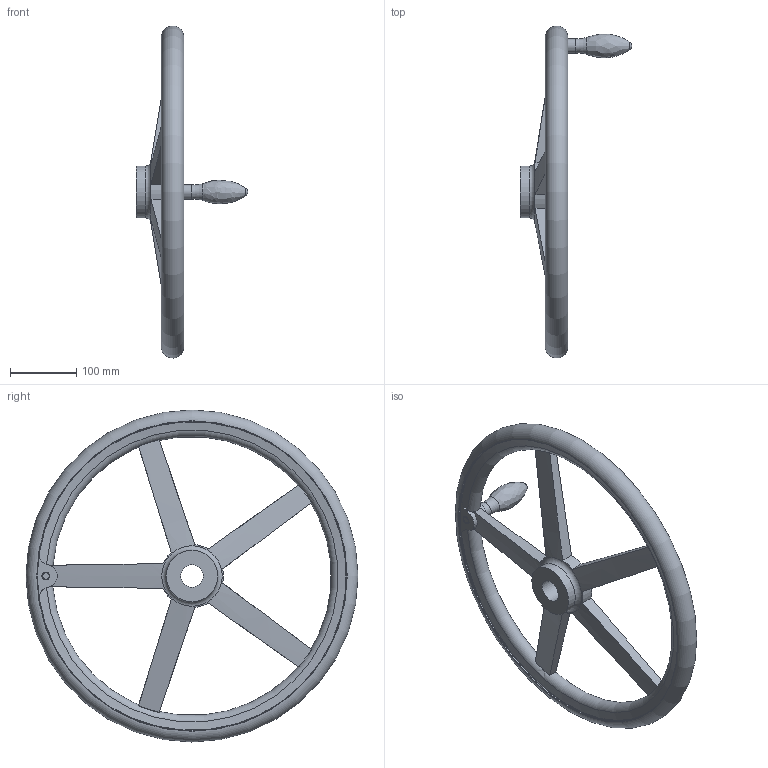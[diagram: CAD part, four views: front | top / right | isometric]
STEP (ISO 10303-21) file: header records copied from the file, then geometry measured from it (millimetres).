
FILE_DESCRIPTION( ( 'STEP AP203' ), '1' );
FILE_NAME( 'C:/Temp/Ganter_Step_05_03_2020/data/1_3/din_950/din_950_b/din_950_b_f/Handwheel DIN 950-GG-500-B34-F.stp', '2020-03-05T10:30:25', ( 'License CC BY-ND 4.0' ), ( 'CADENAS' ), ' ', 'PARTsolutions', ' ' );
FILE_SCHEMA( ( 'CONFIG_CONTROL_DESIGN' ) );
Length unit declared in the file: millimetre
Products named in the file (1): _Handwheel DIN 950-GG-500-B34-F
Bounding box: 168.5 x 499.91 x 499.91 mm (x, y, z)
Volume: 2150172.8 mm3; surface area: 288220.7 mm2
Topology: 1 solids, 1 shells, 61 faces, 179 edges, 115 vertices
Faces by surface type: torus 21, cylinder 18, plane 15, cone 5, bspline 1, sphere 1
Full cylindrical faces by diameter (mm): 12 x1, 21.8 x1, 34 x1, 78 x2, 466 x2
Entity records: 2495 total; most frequent: CARTESIAN_POINT 1011, ORIENTED_EDGE 306, DIRECTION 270, EDGE_CURVE 153, AXIS2_PLACEMENT_3D 128, VERTEX_POINT 111, EDGE_LOOP 88, FACE_OUTER_BOUND 77
